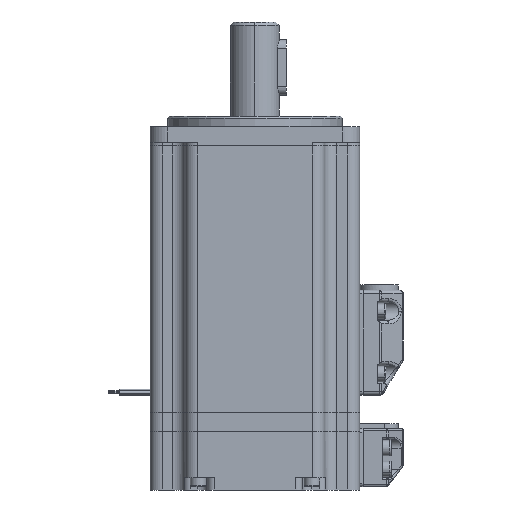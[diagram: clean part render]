
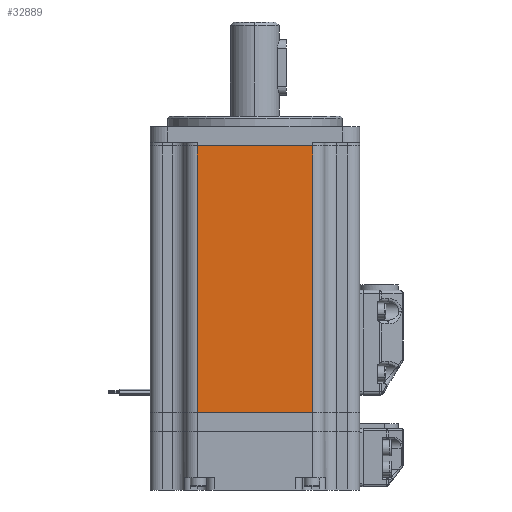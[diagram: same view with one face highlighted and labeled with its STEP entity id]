
A CAD part, front view. The second image highlights one B-rep face of the part: STEP entity #32889.
In plain terms, the highlighted planar face has unit normal (0, -1, 0).
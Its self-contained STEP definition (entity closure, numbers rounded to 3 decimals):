
#3389 = DIRECTION ( 'NONE',  ( 0., 0., 1. ) ) ;
#4155 = LINE ( 'NONE', #27000, #42050 ) ;
#7234 = CARTESIAN_POINT ( 'NONE',  ( -16.5, -30., -76.3 ) ) ;
#11389 = LINE ( 'NONE', #19188, #46083 ) ;
#14075 = CARTESIAN_POINT ( 'NONE',  ( -20., -30., 0. ) ) ;
#17196 = VECTOR ( 'NONE', #3389, 1000. ) ;
#17541 = VERTEX_POINT ( 'NONE', #7234 ) ;
#18950 = CARTESIAN_POINT ( 'NONE',  ( 16.5, -30., -76.3 ) ) ;
#19079 = VERTEX_POINT ( 'NONE', #52822 ) ;
#19188 = CARTESIAN_POINT ( 'NONE',  ( -20., -30., -76.3 ) ) ;
#21856 = PLANE ( 'NONE',  #34935 ) ;
#21912 = EDGE_CURVE ( 'NONE', #52834, #17541, #11389, .T. ) ;
#24807 = CARTESIAN_POINT ( 'NONE',  ( 16.5, -30., -76.3 ) ) ;
#27000 = CARTESIAN_POINT ( 'NONE',  ( -16.5, -30., -76.3 ) ) ;
#27055 = CARTESIAN_POINT ( 'NONE',  ( -20., -30., -76.3 ) ) ;
#28824 = ORIENTED_EDGE ( 'NONE', *, *, #38278, .T. ) ;
#29464 = LINE ( 'NONE', #14075, #36646 ) ;
#32889 = ADVANCED_FACE ( 'NONE', ( #50109 ), #21856, .F. ) ;
#34145 = EDGE_LOOP ( 'NONE', ( #28824, #35332, #48950, #42342 ) ) ;
#34935 = AXIS2_PLACEMENT_3D ( 'NONE', #27055, #43253, #58426 ) ;
#34949 = DIRECTION ( 'NONE',  ( -1., 0., 0. ) ) ;
#35332 = ORIENTED_EDGE ( 'NONE', *, *, #64857, .T. ) ;
#35735 = LINE ( 'NONE', #18950, #17196 ) ;
#36189 = VERTEX_POINT ( 'NONE', #40459 ) ;
#36646 = VECTOR ( 'NONE', #39962, 1000. ) ;
#38278 = EDGE_CURVE ( 'NONE', #36189, #19079, #29464, .T. ) ;
#39962 = DIRECTION ( 'NONE',  ( -1., 0., 0. ) ) ;
#40459 = CARTESIAN_POINT ( 'NONE',  ( 16.5, -30., 0. ) ) ;
#42050 = VECTOR ( 'NONE', #53385, 1000. ) ;
#42342 = ORIENTED_EDGE ( 'NONE', *, *, #63655, .T. ) ;
#43253 = DIRECTION ( 'NONE',  ( 0., 1., 0. ) ) ;
#46083 = VECTOR ( 'NONE', #34949, 1000. ) ;
#48950 = ORIENTED_EDGE ( 'NONE', *, *, #21912, .F. ) ;
#50109 = FACE_OUTER_BOUND ( 'NONE', #34145, .T. ) ;
#52822 = CARTESIAN_POINT ( 'NONE',  ( -16.5, -30., 0. ) ) ;
#52834 = VERTEX_POINT ( 'NONE', #24807 ) ;
#53385 = DIRECTION ( 'NONE',  ( 0., 0., -1. ) ) ;
#58426 = DIRECTION ( 'NONE',  ( 0., 0., 1. ) ) ;
#63655 = EDGE_CURVE ( 'NONE', #52834, #36189, #35735, .T. ) ;
#64857 = EDGE_CURVE ( 'NONE', #19079, #17541, #4155, .T. ) ;
